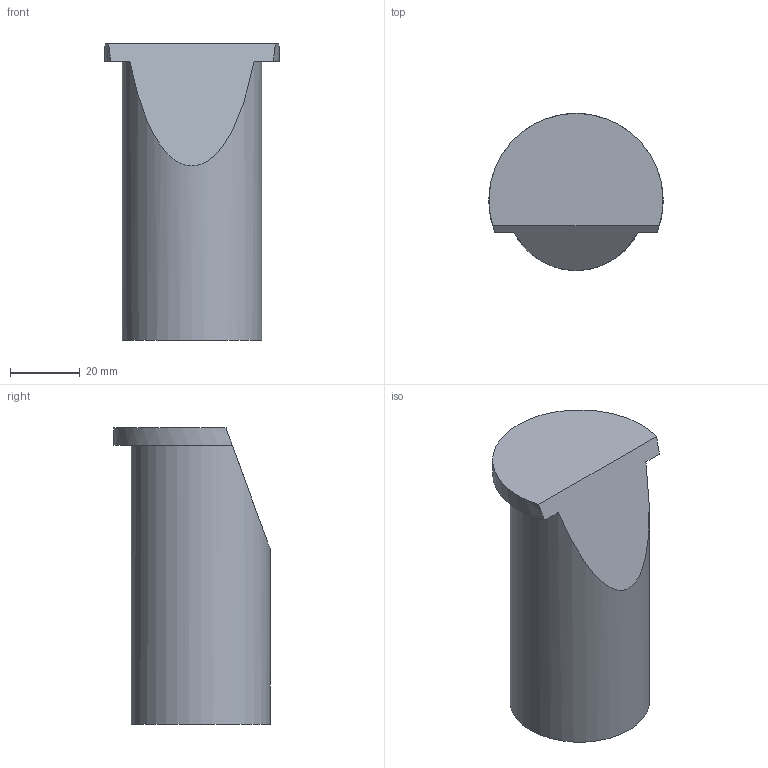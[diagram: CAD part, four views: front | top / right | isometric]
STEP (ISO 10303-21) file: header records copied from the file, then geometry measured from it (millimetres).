
FILE_DESCRIPTION(/* description */ (''),/* implementation_level */ '2;1');
FILE_NAME(/* name */ 'C:\Users\cenge\Desktop\LT-Aufnahme.stp',/* time_stamp */ '2020-04-20T18:34:27+02:00',/* author */ ('cenge'),/* organization */ (''),/* preprocessor_version */ 'ST-DEVELOPER v18',/* originating_system */ 'Autodesk Inventor 2020',/* authorisation */ '');
FILE_SCHEMA (('AUTOMOTIVE_DESIGN { 1 0 10303 214 3 1 1 }'));
Length unit declared in the file: millimetre
Products named in the file (1): LT-Aufnahme
Bounding box: 49.97 x 45 x 85 mm (x, y, z)
Volume: 104016.3 mm3; surface area: 13775.3 mm2
Topology: 1 solids, 1 shells, 6 faces, 13 edges, 9 vertices
Faces by surface type: plane 4, cylinder 2
Full cylindrical faces by diameter (mm): 40 x1
Entity records: 215 total; most frequent: DIRECTION 36, CARTESIAN_POINT 29, ORIENTED_EDGE 26, AXIS2_PLACEMENT_3D 16, EDGE_CURVE 13, VERTEX_POINT 9, CIRCLE 6, FACE_OUTER_BOUND 6
